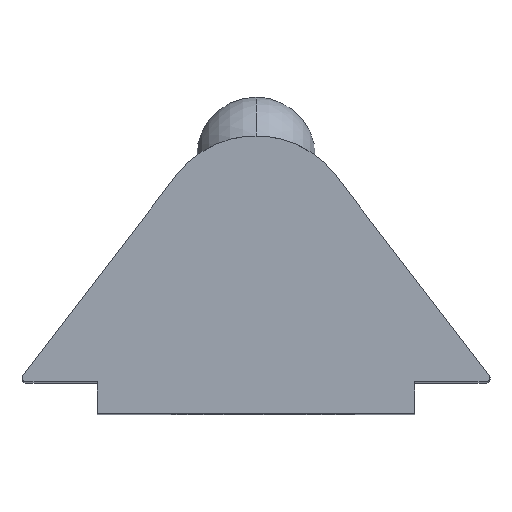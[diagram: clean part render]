
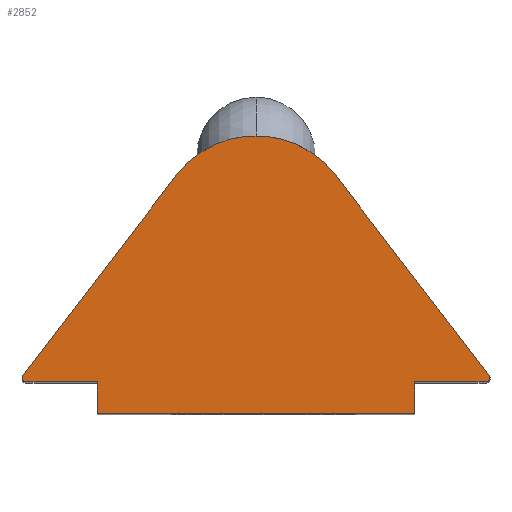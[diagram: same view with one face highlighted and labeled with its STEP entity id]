
A CAD part, top view. The second image highlights one B-rep face of the part: STEP entity #2852.
In plain terms, the highlighted planar face has unit normal (0, 0, 1).
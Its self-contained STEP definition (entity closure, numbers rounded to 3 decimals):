
#39 = EDGE_CURVE ( 'NONE', #1526, #1916, #2585, .T. ) ;
#48 = DIRECTION ( 'NONE',  ( -0.609, 0.793, 0. ) ) ;
#57 = VERTEX_POINT ( 'NONE', #1329 ) ;
#107 = CARTESIAN_POINT ( 'NONE',  ( -5.797, 0.9, 10. ) ) ;
#116 = CIRCLE ( 'NONE', #1505, 0.1 ) ;
#213 = VERTEX_POINT ( 'NONE', #2370 ) ;
#244 = EDGE_CURVE ( 'NONE', #495, #1689, #1588, .T. ) ;
#300 = LINE ( 'NONE', #1148, #1117 ) ;
#392 = DIRECTION ( 'NONE',  ( 1., 0., 0. ) ) ;
#426 = ORIENTED_EDGE ( 'NONE', *, *, #2348, .F. ) ;
#434 = EDGE_CURVE ( 'NONE', #1526, #848, #116, .T. ) ;
#442 = CIRCLE ( 'NONE', #2259, 2.521 ) ;
#482 = DIRECTION ( 'NONE',  ( 1., 0., 0. ) ) ;
#495 = VERTEX_POINT ( 'NONE', #2628 ) ;
#543 = CARTESIAN_POINT ( 'NONE',  ( 0., 0., 10. ) ) ;
#548 = PLANE ( 'NONE',  #1824 ) ;
#553 = VECTOR ( 'NONE', #2246, 1000. ) ;
#565 = EDGE_CURVE ( 'NONE', #57, #213, #1577, .T. ) ;
#588 = LINE ( 'NONE', #543, #2191 ) ;
#633 = ORIENTED_EDGE ( 'NONE', *, *, #2294, .F. ) ;
#771 = DIRECTION ( 'NONE',  ( 1., 0., 0. ) ) ;
#805 = ORIENTED_EDGE ( 'NONE', *, *, #565, .T. ) ;
#848 = VERTEX_POINT ( 'NONE', #1614 ) ;
#944 = ORIENTED_EDGE ( 'NONE', *, *, #434, .T. ) ;
#953 = CARTESIAN_POINT ( 'NONE',  ( 4.163, 3.194, 10. ) ) ;
#954 = DIRECTION ( 'NONE',  ( -1., 0., 0. ) ) ;
#970 = VECTOR ( 'NONE', #48, 1000. ) ;
#1000 = DIRECTION ( 'NONE',  ( 1., 0., 0. ) ) ;
#1031 = DIRECTION ( 'NONE',  ( 0., 0., 1. ) ) ;
#1117 = VECTOR ( 'NONE', #2911, 1000. ) ;
#1148 = CARTESIAN_POINT ( 'NONE',  ( -4., 0., 10. ) ) ;
#1232 = CARTESIAN_POINT ( 'NONE',  ( 4., 0., 10. ) ) ;
#1258 = DIRECTION ( 'NONE',  ( -1., 0., 0. ) ) ;
#1279 = VECTOR ( 'NONE', #2208, 1000. ) ;
#1329 = CARTESIAN_POINT ( 'NONE',  ( 4., 0.8, 10. ) ) ;
#1370 = CARTESIAN_POINT ( 'NONE',  ( -5.877, 0.961, 10. ) ) ;
#1405 = CARTESIAN_POINT ( 'NONE',  ( -2., 6.014, 10. ) ) ;
#1444 = CARTESIAN_POINT ( 'NONE',  ( 0., 0., 10. ) ) ;
#1471 = DIRECTION ( 'NONE',  ( 0., 0., 1. ) ) ;
#1505 = AXIS2_PLACEMENT_3D ( 'NONE', #107, #1471, #1000 ) ;
#1526 = VERTEX_POINT ( 'NONE', #1370 ) ;
#1577 = LINE ( 'NONE', #1806, #1642 ) ;
#1588 = LINE ( 'NONE', #953, #970 ) ;
#1614 = CARTESIAN_POINT ( 'NONE',  ( -5.897, 0.9, 10. ) ) ;
#1642 = VECTOR ( 'NONE', #482, 1000. ) ;
#1644 = LINE ( 'NONE', #1796, #1719 ) ;
#1668 = CARTESIAN_POINT ( 'NONE',  ( 4., 0., 10. ) ) ;
#1687 = ORIENTED_EDGE ( 'NONE', *, *, #2459, .T. ) ;
#1689 = VERTEX_POINT ( 'NONE', #2920 ) ;
#1719 = VECTOR ( 'NONE', #954, 1000. ) ;
#1754 = FACE_OUTER_BOUND ( 'NONE', #1763, .T. ) ;
#1763 = EDGE_LOOP ( 'NONE', ( #2525, #944, #2163, #426, #633, #2856, #2060, #805, #1687, #1770, #2741 ) ) ;
#1770 = ORIENTED_EDGE ( 'NONE', *, *, #244, .T. ) ;
#1796 = CARTESIAN_POINT ( 'NONE',  ( 0., 0.8, 10. ) ) ;
#1806 = CARTESIAN_POINT ( 'NONE',  ( 0., 0.8, 10. ) ) ;
#1824 = AXIS2_PLACEMENT_3D ( 'NONE', #1444, #1930, #2848 ) ;
#1887 = CARTESIAN_POINT ( 'NONE',  ( -4., 0.8, 10. ) ) ;
#1916 = VERTEX_POINT ( 'NONE', #1405 ) ;
#1930 = DIRECTION ( 'NONE',  ( 0., 0., 1. ) ) ;
#2047 = VERTEX_POINT ( 'NONE', #1887 ) ;
#2060 = ORIENTED_EDGE ( 'NONE', *, *, #2545, .T. ) ;
#2101 = VERTEX_POINT ( 'NONE', #1232 ) ;
#2142 = CARTESIAN_POINT ( 'NONE',  ( 5.797, 0.9, 10. ) ) ;
#2151 = DIRECTION ( 'NONE',  ( -1., 0., 0. ) ) ;
#2163 = ORIENTED_EDGE ( 'NONE', *, *, #2175, .T. ) ;
#2175 = EDGE_CURVE ( 'NONE', #848, #2629, #2412, .T. ) ;
#2183 = CARTESIAN_POINT ( 'NONE',  ( -5.797, 0.9, 10. ) ) ;
#2191 = VECTOR ( 'NONE', #2151, 1000. ) ;
#2195 = CIRCLE ( 'NONE', #2202, 0.1 ) ;
#2202 = AXIS2_PLACEMENT_3D ( 'NONE', #2142, #2578, #771 ) ;
#2208 = DIRECTION ( 'NONE',  ( 0., 1., 0. ) ) ;
#2246 = DIRECTION ( 'NONE',  ( 0.609, 0.793, 0. ) ) ;
#2259 = AXIS2_PLACEMENT_3D ( 'NONE', #2853, #1031, #1258 ) ;
#2268 = LINE ( 'NONE', #1668, #1279 ) ;
#2276 = CARTESIAN_POINT ( 'NONE',  ( -4.163, 3.194, 10. ) ) ;
#2294 = EDGE_CURVE ( 'NONE', #2636, #2047, #300, .T. ) ;
#2348 = EDGE_CURVE ( 'NONE', #2047, #2629, #1644, .T. ) ;
#2370 = CARTESIAN_POINT ( 'NONE',  ( 5.797, 0.8, 10. ) ) ;
#2412 = CIRCLE ( 'NONE', #2874, 0.1 ) ;
#2418 = DIRECTION ( 'NONE',  ( 0., 0., 1. ) ) ;
#2459 = EDGE_CURVE ( 'NONE', #213, #495, #2195, .T. ) ;
#2477 = EDGE_CURVE ( 'NONE', #2101, #2636, #588, .T. ) ;
#2525 = ORIENTED_EDGE ( 'NONE', *, *, #39, .F. ) ;
#2545 = EDGE_CURVE ( 'NONE', #2101, #57, #2268, .T. ) ;
#2578 = DIRECTION ( 'NONE',  ( 0., 0., 1. ) ) ;
#2585 = LINE ( 'NONE', #2276, #553 ) ;
#2615 = CARTESIAN_POINT ( 'NONE',  ( -4., 0., 10. ) ) ;
#2628 = CARTESIAN_POINT ( 'NONE',  ( 5.877, 0.961, 10. ) ) ;
#2629 = VERTEX_POINT ( 'NONE', #2631 ) ;
#2631 = CARTESIAN_POINT ( 'NONE',  ( -5.797, 0.8, 10. ) ) ;
#2634 = EDGE_CURVE ( 'NONE', #1689, #1916, #442, .T. ) ;
#2636 = VERTEX_POINT ( 'NONE', #2615 ) ;
#2741 = ORIENTED_EDGE ( 'NONE', *, *, #2634, .T. ) ;
#2848 = DIRECTION ( 'NONE',  ( 1., 0., 0. ) ) ;
#2852 = ADVANCED_FACE ( 'NONE', ( #1754 ), #548, .T. ) ;
#2853 = CARTESIAN_POINT ( 'NONE',  ( 0., 4.479, 10. ) ) ;
#2856 = ORIENTED_EDGE ( 'NONE', *, *, #2477, .F. ) ;
#2874 = AXIS2_PLACEMENT_3D ( 'NONE', #2183, #2418, #392 ) ;
#2911 = DIRECTION ( 'NONE',  ( 0., 1., 0. ) ) ;
#2920 = CARTESIAN_POINT ( 'NONE',  ( 2., 6.014, 10. ) ) ;
